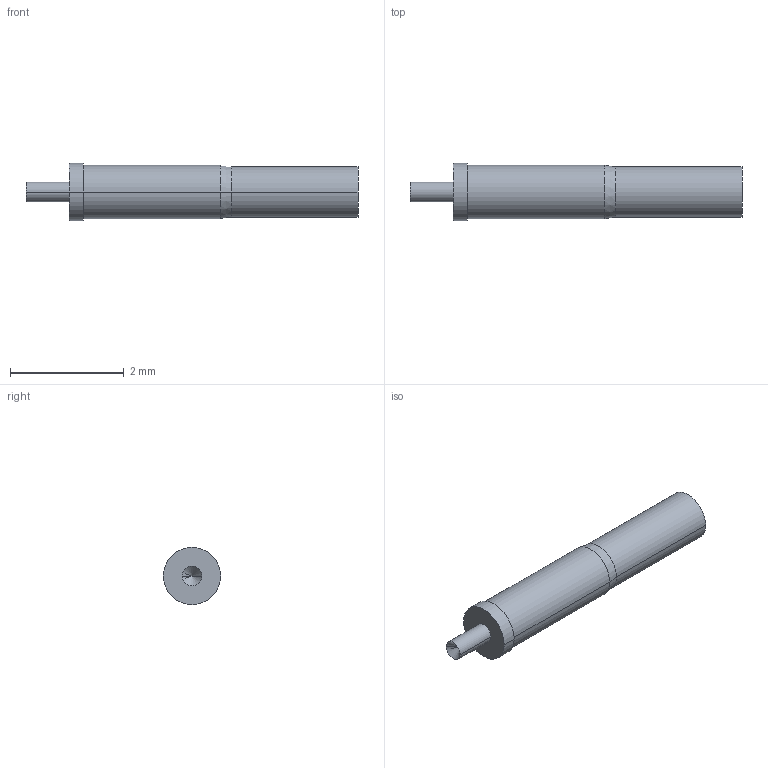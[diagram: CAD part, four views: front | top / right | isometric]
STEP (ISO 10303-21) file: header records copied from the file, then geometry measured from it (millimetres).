
FILE_DESCRIPTION (( 'STEP AP203' ), '1' );
FILE_NAME ('II09-1V.STEP', '2014-08-25T05:38:04', ( '' ), ( '' ), 'SwSTEP 2.0', 'SolidWorks 2011', '' );
FILE_SCHEMA (( 'CONFIG_CONTROL_DESIGN' ));
Length unit declared in the file: millimetre
Products named in the file (1): II09-1V
Bounding box: 5.84 x 1.01 x 1.01 mm (x, y, z)
Volume: 3 mm3; surface area: 19.5 mm2
Topology: 1 solids, 1 shells, 18 faces, 36 edges, 21 vertices
Faces by surface type: cylinder 10, cone 4, plane 4
Entity records: 535 total; most frequent: DIRECTION 92, CARTESIAN_POINT 74, ORIENTED_EDGE 68, AXIS2_PLACEMENT_3D 39, EDGE_CURVE 34, VERTEX_POINT 21, EDGE_LOOP 21, CIRCLE 20
